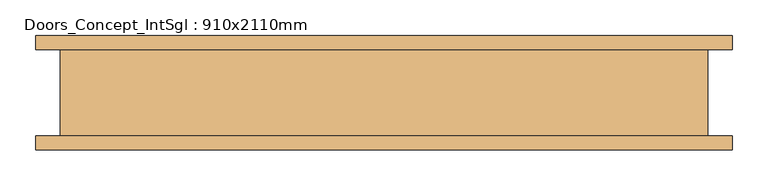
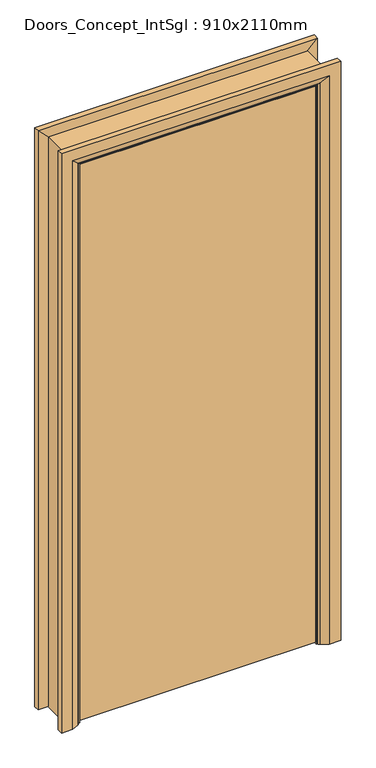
"""IFC4 building model written with IfcOpenShell, lengths in millimetres: door geometry, Doors_Concept_IntSgl : 910x2110mm."""

from ifc_helpers import new_model, si_unit, frame, origin, place, context, project, spatial, polyline, circle_curve, ellipse_curve, outline, extrude, faceted_brep, source, transform, mapped, element, save
from ifc_brep_helpers import plane_surface, cylinder_surface, advanced_brep


def doors_concept_intsgl_910x2110mm_9e80112f(model_context):
    return source(origin(), model_context, "Body", "SolidModel", [
        extrude(outline(polyline([(413.0, -22.75), (413.0, -60.75), (-413.0, -60.75), (-413.0, -22.75), (413.0, -22.75)])), frame((0.0, 0.0, 8.0), z_axis=(0.0, 0.0, 1.0), x_axis=(1.0, 0.0, 0.0)), (0.0, 0.0, 1.0), 2060.0),
        advanced_brep(
        [(490.0, -80.75, 0.0), (450.0, -80.75, 0.0), (424.0, -66.75, 0.0), (420.0, -60.75, 0.0), (490.0, -60.75, 0.0), (490.0, -60.75, 2145.0), (490.0, -80.75, 2145.0), (420.0, -60.75, 2075.0), (-420.0, -60.75, 2075.0), (-420.0, -60.75, 0.0), (-490.0, -60.75, 0.0), (-490.0, -60.75, 2145.0), (424.0, -66.75, 2079.0), (450.0, -80.75, 2105.0), (-490.0, -80.75, 2145.0), (-490.0, -80.75, 0.0), (-450.0, -80.75, 0.0), (-450.0, -80.75, 2105.0), (-424.0, -66.75, 0.0), (-424.0, -66.75, 2079.0)],
        [
            (0, 1),
            (1, 2),
            (2, 3, circle_curve(frame((428.0, -59.75, 0.0), z_axis=(0.0, 0.0, -1.0), x_axis=(1.0, 0.0, 0.0)), 8.0622577)),
            (3, 4),
            (4, 0),
            (4, 5),
            (5, 6),
            (6, 0),
            (3, 7),
            (7, 8),
            (8, 9),
            (9, 10),
            (10, 11),
            (11, 5),
            (2, 12),
            (12, 7, ellipse_curve(frame((428.0, -59.75, 2083.0), z_axis=(0.7071067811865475, 0.0, -0.7071067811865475), x_axis=(-0.7071067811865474, 0.0, -0.7071067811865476)), 11.4017543, 8.0622577)),
            (1, 13),
            (13, 12),
            (6, 14),
            (14, 15),
            (15, 16),
            (16, 17),
            (17, 13),
            (10, 15),
            (14, 11),
            (9, 18, circle_curve(frame((-428.0, -59.75, 0.0), z_axis=(0.0, 0.0, -1.0), x_axis=(-1.0, 0.0, 0.0)), 8.0622577)),
            (18, 16),
            (19, 18),
            (8, 19, ellipse_curve(frame((-428.0, -59.75, 2083.0), z_axis=(-0.7071067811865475, 0.0, -0.7071067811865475), x_axis=(-0.7071067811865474, 0.0, 0.7071067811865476)), 11.4017543, 8.0622577)),
            (19, 17),
            (12, 19),
        ],
        [
            plane_surface(frame((420.0, -60.75, 0.0), z_axis=(0.0, 0.0, -1.0), x_axis=(0.0, 1.0, 0.0))),
            plane_surface(frame((490.0, -80.75, 0.0), z_axis=(1.0, 0.0, 0.0), x_axis=(0.0, 0.0, 1.0))),
            plane_surface(frame((490.0, -60.75, 0.0), z_axis=(0.0, 1.0, 0.0), x_axis=(0.0, 0.0, 1.0))),
            cylinder_surface(frame((428.0, -59.75, 0.0), z_axis=(0.0, 0.0, -1.0), x_axis=(1.0, 0.0, 0.0)), 8.0622577),
            plane_surface(frame((424.0, -66.75, 0.0), z_axis=(-0.4740998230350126, -0.880471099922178, 0.0), x_axis=(0.0, 0.0, 1.0))),
            plane_surface(frame((450.0, -80.75, 0.0), z_axis=(0.0, -1.0, 0.0), x_axis=(0.0, 0.0, 1.0))),
            plane_surface(frame((-490.0, -80.75, 2145.0), z_axis=(-1.0, 0.0, 0.0), x_axis=(0.0, 0.0, -1.0))),
            plane_surface(frame((-420.0, -60.75, 0.0), z_axis=(0.0, 0.0, -1.0), x_axis=(0.0, 1.0, 0.0))),
            cylinder_surface(frame((-428.0, -59.75, 2075.0), z_axis=(0.0, 0.0, 1.0), x_axis=(-1.0, 0.0, 0.0)), 8.0622577),
            plane_surface(frame((-424.0, -66.75, 2079.0), z_axis=(0.47409982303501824, -0.8804710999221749, 0.0), x_axis=(0.0, 0.0, -1.0))),
            plane_surface(frame((490.0, -80.75, 2145.0), z_axis=(0.0, 0.0, 1.0), x_axis=(-1.0, 0.0, 0.0))),
            cylinder_surface(frame((420.0, -59.75, 2083.0), z_axis=(1.0, 0.0, 0.0), x_axis=(0.0, 0.0, 1.0)), 8.0622577),
            plane_surface(frame((424.0, -66.75, 2079.0), z_axis=(0.0, -0.8804710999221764, -0.4740998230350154), x_axis=(-1.0, 0.0, 0.0))),
        ],
        [
            (0, [[1, 2, 3, 4, 5]]),
            (1, [[6, 7, 8, -5]]),
            (2, [[9, 10, 11, 12, 13, 14, -6, -4]]),
            (3, [[15, 16, -9, -3]]),
            (4, [[17, 18, -15, -2]]),
            (5, [[-8, 19, 20, 21, 22, 23, -17, -1]]),
            (6, [[-13, 24, -20, 25]]),
            (7, [[-24, -12, 26, 27, -21]]),
            (8, [[28, -26, -11, 29]]),
            (9, [[-22, -27, -28, 30]]),
            (10, [[-14, -25, -19, -7]]),
            (11, [[31, -29, -10, -16]]),
            (12, [[-23, -30, -31, -18]]),
        ],
    ),
        extrude(outline(polyline([(0.0, -396.0), (2051.0, -396.0), (2051.0, 396.0), (0.0, 396.0), (0.0, 415.0), (2070.0, 415.0), (2070.0, -415.0), (0.0, -415.0), (0.0, -396.0)])), frame((0.0, -20.75, 0.0), z_axis=(0.0, 1.0, 0.0), x_axis=(0.0, 0.0, 1.0)), (0.0, 0.0, 1.0), 32.0),
        advanced_brep(
        [(-490.0, 80.75, 0.0), (-450.0, 80.75, 0.0), (-424.0, 66.75, 0.0), (-420.0, 60.75, 0.0), (-490.0, 60.75, 0.0), (-490.0, 60.75, 2145.0), (-490.0, 80.75, 2145.0), (-420.0, 60.75, 2075.0), (-424.0, 66.75, 2079.0), (-450.0, 80.75, 2105.0), (490.0, 80.75, 0.0), (490.0, 60.75, 0.0), (420.0, 60.75, 0.0), (424.0, 66.75, 0.0), (450.0, 80.75, 0.0), (490.0, 80.75, 2145.0), (450.0, 80.75, 2105.0), (424.0, 66.75, 2079.0), (420.0, 60.75, 2075.0), (490.0, 60.75, 2145.0)],
        [
            (0, 1),
            (1, 2),
            (2, 3, circle_curve(frame((-428.0, 59.75, 0.0), z_axis=(0.0, 0.0, -1.0), x_axis=(-1.0, 0.0, 0.0)), 8.0622577)),
            (3, 4),
            (4, 0),
            (4, 5),
            (5, 6),
            (6, 0),
            (3, 7),
            (7, 5),
            (2, 8),
            (8, 7, ellipse_curve(frame((-428.0, 59.75, 2083.0), z_axis=(-0.7071067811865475, 0.0, -0.7071067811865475), x_axis=(0.7071067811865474, 0.0, -0.7071067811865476)), 11.4017543, 8.0622577)),
            (1, 9),
            (9, 8),
            (6, 9),
            (10, 11),
            (11, 12),
            (12, 13, circle_curve(frame((428.0, 59.75, 0.0), z_axis=(0.0, 0.0, -1.0), x_axis=(1.0, 0.0, 0.0)), 8.0622577)),
            (13, 14),
            (14, 10),
            (15, 10),
            (14, 16),
            (16, 15),
            (13, 17),
            (17, 16),
            (12, 18),
            (18, 17, ellipse_curve(frame((428.0, 59.75, 2083.0), z_axis=(0.7071067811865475, 0.0, -0.7071067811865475), x_axis=(0.7071067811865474, 0.0, 0.7071067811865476)), 11.4017543, 8.0622577)),
            (11, 19),
            (19, 18),
            (15, 19),
            (5, 19),
            (15, 6),
            (7, 18),
            (8, 17),
            (9, 16),
        ],
        [
            plane_surface(frame((-420.0, 133.5510989, 0.0), z_axis=(0.0, 0.0, -1.0), x_axis=(1.0, 0.0, 0.0))),
            plane_surface(frame((-490.0, 80.75, 0.0), z_axis=(-1.0, 0.0, 0.0), x_axis=(0.0, 0.0, 1.0))),
            plane_surface(frame((-490.0, 60.75, 0.0), z_axis=(0.0, -1.0, 0.0), x_axis=(0.0, 0.0, 1.0))),
            cylinder_surface(frame((-428.0, 59.75, 0.0), z_axis=(0.0, 0.0, -1.0), x_axis=(-1.0, 0.0, 0.0)), 8.0622577),
            plane_surface(frame((-424.0, 66.75, 0.0), z_axis=(0.4740998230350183, 0.8804710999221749, 0.0), x_axis=(0.0, 0.0, 1.0))),
            plane_surface(frame((-450.0, 80.75, 0.0), z_axis=(0.0, 1.0, 0.0), x_axis=(0.0, 0.0, 1.0))),
            plane_surface(frame((420.0, 133.5510989, 0.0), z_axis=(0.0, 0.0, -1.0), x_axis=(-1.0, 0.0, 0.0))),
            plane_surface(frame((450.0, 80.75, 2105.0), z_axis=(0.0, 1.0, 0.0), x_axis=(0.0, 0.0, -1.0))),
            plane_surface(frame((424.0, 66.75, 2079.0), z_axis=(-0.4740998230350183, 0.8804710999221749, 0.0), x_axis=(0.0, 0.0, -1.0))),
            cylinder_surface(frame((428.0, 59.75, 2075.0), z_axis=(0.0, 0.0, 1.0), x_axis=(1.0, 0.0, 0.0)), 8.0622577),
            plane_surface(frame((490.0, 60.75, 2145.0), z_axis=(0.0, -1.0, 0.0), x_axis=(0.0, 0.0, -1.0))),
            plane_surface(frame((490.0, 80.75, 2145.0), z_axis=(1.0, 0.0, 0.0), x_axis=(0.0, 0.0, -1.0))),
            plane_surface(frame((-490.0, 80.75, 2145.0), z_axis=(0.0, 0.0, 1.0), x_axis=(1.0, 0.0, 0.0))),
            plane_surface(frame((-490.0, 60.75, 2145.0), z_axis=(0.0, -1.0, 0.0), x_axis=(1.0, 0.0, 0.0))),
            cylinder_surface(frame((-420.0, 59.75, 2083.0), z_axis=(-1.0, 0.0, 0.0), x_axis=(0.0, 0.0, 1.0)), 8.0622577),
            plane_surface(frame((-424.0, 66.75, 2079.0), z_axis=(0.0, 0.8804710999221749, -0.4740998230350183), x_axis=(1.0, 0.0, 0.0))),
            plane_surface(frame((-450.0, 80.75, 2105.0), z_axis=(0.0, 1.0, 0.0), x_axis=(1.0, 0.0, 0.0))),
        ],
        [
            (0, [[1, 2, 3, 4, 5]]),
            (1, [[6, 7, 8, -5]]),
            (2, [[9, 10, -6, -4]]),
            (3, [[11, 12, -9, -3]]),
            (4, [[13, 14, -11, -2]]),
            (5, [[-8, 15, -13, -1]]),
            (6, [[16, 17, 18, 19, 20]]),
            (7, [[21, -20, 22, 23]]),
            (8, [[-22, -19, 24, 25]]),
            (9, [[-24, -18, 26, 27]]),
            (10, [[-26, -17, 28, 29]]),
            (11, [[-28, -16, -21, 30]]),
            (12, [[31, -30, 32, -7]]),
            (13, [[33, -29, -31, -10]]),
            (14, [[34, -27, -33, -12]]),
            (15, [[35, -25, -34, -14]]),
            (16, [[-32, -23, -35, -15]]),
        ],
    ),
        faceted_brep([(-415.0, 60.75, 0.0), (-415.0, -60.75, 0.0), (-455.0, -60.75, 0.0), (-455.0, 60.75, 0.0), (-455.0, 60.75, 2110.0), (-415.0, 60.75, 2070.0), (-455.0, -60.75, 2110.0), (-415.0, -60.75, 2070.0), (415.0, 60.75, 0.0), (455.0, 60.75, 0.0), (455.0, -60.75, 0.0), (415.0, -60.75, 0.0), (415.0, 60.75, 2070.0), (415.0, -60.75, 2070.0), (455.0, -60.75, 2110.0), (455.0, 60.75, 2110.0)], [[[0, 1, 2, 3]], [[3, 4, 5, 0]], [[2, 6, 4, 3]], [[1, 7, 6, 2]], [[0, 5, 7, 1]], [[8, 9, 10, 11]], [[12, 8, 11, 13]], [[13, 11, 10, 14]], [[14, 10, 9, 15]], [[15, 9, 8, 12]], [[4, 15, 12, 5]], [[6, 14, 15, 4]], [[7, 13, 14, 6]], [[5, 12, 13, 7]]]),
    ])


if __name__ == "__main__":
    model = new_model("IFC4")
    model_context = context("Model", 3, world=origin())
    ifc_project = project(units=[si_unit("LENGTHUNIT", "METRE", prefix="MILLI")], contexts=[model_context])
    site = spatial("IfcSite", under=ifc_project)
    building = spatial("IfcBuilding", under=site)
    placement = place(None, origin())
    doors_concept_intsgl_910x2110mm_shape = doors_concept_intsgl_910x2110mm_9e80112f(model_context)
    element("IfcDoor", 1, ObjectType="Doors_Concept_IntSgl : 910x2110mm", at=placement, inside=building, context=model_context, shape_type="MappedRepresentation", body=[
        mapped(doors_concept_intsgl_910x2110mm_shape, transform((0.0, 0.0, 0.0), x_axis=(1.0, 0.0, 0.0), y_axis=(0.0, 1.0, 0.0), z_axis=(0.0, 0.0, 1.0))),
    ])
    save(model, "model.ifc")
